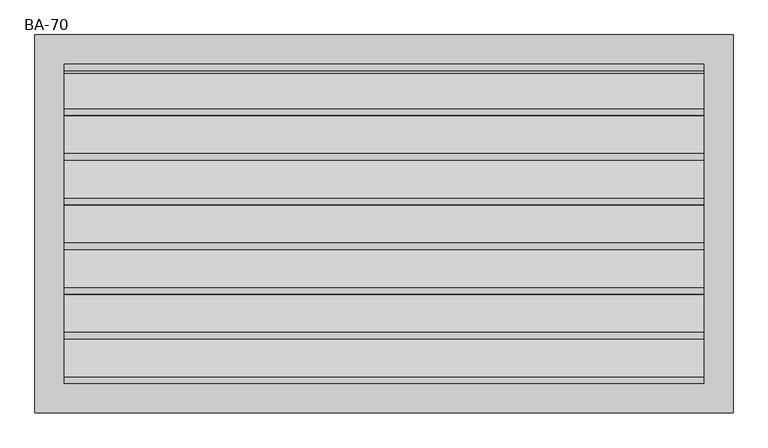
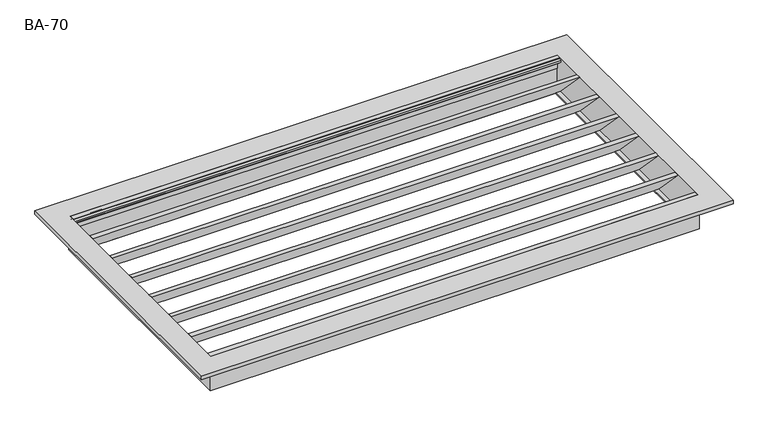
"""IFC4 building model written with IfcOpenShell, lengths in millimetres: air terminal geometry, NLRS_57_AIR_FB_Buitenluchtroosters BA_SMA : BA-70."""

from ifc_helpers import new_model, si_unit, frame, origin, place, context, project, spatial, polyline, outline, extrude, faceted_brep, source, transform, mapped, element, save


def ba_70_810faa98(model_context):
    return source(origin(), model_context, "Body", "SolidModel", [
        extrude(outline(polyline([(180.0694981, 7.5), (180.0694981, 6.1939238), (172.3735338, 6.1939238), (239.9430991, -64.3), (248.800293, -64.3), (248.800293, -62.0069251), (245.903107, -59.1097391), (246.7462329, -58.2666133), (249.9828093, -61.5031897), (249.9828093, -65.5), (240.0, -65.5), (170.0694981, 7.5), (180.0694981, 7.5)])), frame((-500.0, 0.0, 0.0), z_axis=(1.0, 0.0, 0.0), x_axis=(0.0, 1.0, 0.0)), (0.0, 0.0, 1.0), 1000.0),
        extrude(outline(polyline([(110.0694981, 7.5), (110.0694981, 6.1939238), (102.3735338, 6.1939238), (169.9430991, -64.3), (178.800293, -64.3), (178.800293, -62.0069251), (175.903107, -59.1097391), (176.7462329, -58.2666133), (179.9828093, -61.5031897), (179.9828093, -65.5), (170.0, -65.5), (100.0694981, 7.5), (110.0694981, 7.5)])), frame((-500.0, 0.0, 0.0), z_axis=(1.0, 0.0, 0.0), x_axis=(0.0, 1.0, 0.0)), (0.0, 0.0, 1.0), 1000.0),
        extrude(outline(polyline([(40.0694981, 7.5), (40.0694981, 6.1939238), (32.3735338, 6.1939238), (99.9430991, -64.3), (108.800293, -64.3), (108.800293, -62.0069251), (105.903107, -59.1097391), (106.7462329, -58.2666133), (109.9828093, -61.5031897), (109.9828093, -65.5), (100.0, -65.5), (30.0694981, 7.5), (40.0694981, 7.5)])), frame((-500.0, 0.0, 0.0), z_axis=(1.0, 0.0, 0.0), x_axis=(0.0, 1.0, 0.0)), (0.0, 0.0, 1.0), 1000.0),
        extrude(outline(polyline([(-29.9305019, 7.5), (-29.9305019, 6.1939238), (-37.6264662, 6.1939238), (29.9430991, -64.3), (38.800293, -64.3), (38.800293, -62.0069251), (35.903107, -59.1097391), (36.7462329, -58.2666133), (39.9828093, -61.5031897), (39.9828093, -65.5), (30.0, -65.5), (-39.9305019, 7.5), (-29.9305019, 7.5)])), frame((-500.0, 0.0, 0.0), z_axis=(1.0, 0.0, 0.0), x_axis=(0.0, 1.0, 0.0)), (0.0, 0.0, 1.0), 1000.0),
        extrude(outline(polyline([(-99.9305019, 7.5), (-99.9305019, 6.1939238), (-107.6264662, 6.1939238), (-40.0569009, -64.3), (-31.199707, -64.3), (-31.199707, -62.0069251), (-34.096893, -59.1097391), (-33.2537671, -58.2666133), (-30.0171907, -61.5031897), (-30.0171907, -65.5), (-40.0, -65.5), (-109.9305019, 7.5), (-99.9305019, 7.5)])), frame((-500.0, 0.0, 0.0), z_axis=(1.0, 0.0, 0.0), x_axis=(0.0, 1.0, 0.0)), (0.0, 0.0, 1.0), 1000.0),
        extrude(outline(polyline([(-169.9305019, 7.5), (-169.9305019, 6.1939238), (-177.6264662, 6.1939238), (-110.0569009, -64.3), (-101.199707, -64.3), (-101.199707, -62.0069251), (-104.096893, -59.1097391), (-103.2537671, -58.2666133), (-100.0171907, -61.5031897), (-100.0171907, -65.5), (-110.0, -65.5), (-179.9305019, 7.5), (-169.9305019, 7.5)])), frame((-500.0, 0.0, 0.0), z_axis=(1.0, 0.0, 0.0), x_axis=(0.0, 1.0, 0.0)), (0.0, 0.0, 1.0), 1000.0),
        extrude(outline(polyline([(250.0694981, 7.5), (250.0694981, 6.1939238), (242.3735338, 6.1939238), (250.0, -4.3603989), (250.0, -5.5), (240.0694981, 7.5), (250.0694981, 7.5)])), frame((-500.0, 0.0, 0.0), z_axis=(1.0, 0.0, 0.0), x_axis=(0.0, 1.0, 0.0)), (0.0, 0.0, 1.0), 1000.0),
        extrude(outline(polyline([(-239.9305019, 7.5), (-239.9305019, 6.1939238), (-247.6264662, 6.1939238), (-180.0569009, -64.3), (-171.199707, -64.3), (-171.199707, -62.0069251), (-174.096893, -59.1097391), (-173.2537671, -58.2666133), (-170.0171907, -61.5031897), (-170.0171907, -65.5), (-180.0, -65.5), (-249.9305019, 7.5), (-239.9305019, 7.5)])), frame((-500.0, 0.0, 0.0), z_axis=(1.0, 0.0, 0.0), x_axis=(0.0, 1.0, 0.0)), (0.0, 0.0, 1.0), 1000.0),
        extrude(outline(polyline([(246.070888, 4.800074), (250.0, 0.870962), (250.0, -20.199926), (249.0, -20.199926), (249.0, 0.252385), (245.57333, 3.600122), (237.270717, 3.600122), (237.270717, 1.297144), (240.44955, -1.881811), (239.600795, -2.729711), (236.070766, 0.799585), (236.070766, 4.800074), (246.070888, 4.800074)])), frame((-500.0, 0.0, 0.0), z_axis=(1.0, 0.0, 0.0), x_axis=(0.0, 1.0, 0.0)), (0.0, 0.0, 1.0), 1000.0),
        faceted_brep([(490.0, 240.0, -63.5), (490.0, 240.0, -65.5), (490.0, -240.0, -65.5), (490.0, -240.0, -63.5), (500.0, 250.0, 7.5), (500.0, 250.0, -63.5), (500.0, -250.0, -63.5), (500.0, -250.0, 7.5), (546.0, 296.0, 0.0), (546.0, 296.0, 7.5), (546.0, -296.0, 7.5), (546.0, -296.0, 0.0), (543.000015, 293.000015, 1.300049), (543.000015, 293.000015, 0.0), (543.000015, -293.000015, 0.0), (543.000015, -293.000015, 1.300049), (544.000015, 294.000015, 5.5), (544.000015, 294.000015, 1.300049), (544.000015, -294.000015, 1.300049), (544.000015, -294.000015, 5.5), (502.000122, 252.000122, 1.300049), (502.000122, 252.000122, 5.5), (502.000122, -252.000122, 5.5), (502.000122, -252.000122, 1.300049), (503.0, 253.0, 0.0), (503.0, 253.0, 1.300049), (503.0, -253.0, 1.300049), (503.0, -253.0, 0.0), (502.000122, 252.000122, -65.5), (502.000122, 252.000122, 0.0), (502.000122, -252.000122, 0.0), (502.000122, -252.000122, -65.5), (-490.0, -240.0, -65.5), (-490.0, -240.0, -63.5), (-500.0, -250.0, -63.5), (-500.0, -250.0, 7.5), (-546.0, -296.0, 7.5), (-546.0, -296.0, 0.0), (-543.000015, -293.000015, 0.0), (-543.000015, -293.000015, 1.300049), (-544.000015, -294.000015, 1.300049), (-544.000015, -294.000015, 5.5), (-502.000122, -252.000122, 5.5), (-502.000122, -252.000122, 1.300049), (-503.0, -253.0, 1.300049), (-503.0, -253.0, 0.0), (-502.000122, -252.000122, 0.0), (-502.000122, -252.000122, -65.5), (-490.0, 240.0, -65.5), (-490.0, 240.0, -63.5), (-500.0, 250.0, -63.5), (-500.0, 250.0, 7.5), (-546.0, 296.0, 7.5), (-546.0, 296.0, 0.0), (-543.000015, 293.000015, 0.0), (-543.000015, 293.000015, 1.300049), (-544.000015, 294.000015, 1.300049), (-544.000015, 294.000015, 5.5), (-502.000122, 252.000122, 5.5), (-502.000122, 252.000122, 1.300049), (-503.0, 253.0, 1.300049), (-503.0, 253.0, 0.0), (-502.000122, 252.000122, 0.0), (-502.000122, 252.000122, -65.5)], [[[0, 1, 2, 3]], [[4, 5, 6, 7]], [[8, 9, 10, 11]], [[12, 13, 14, 15]], [[16, 17, 18, 19]], [[20, 21, 22, 23]], [[24, 25, 26, 27]], [[28, 29, 30, 31]], [[3, 2, 32, 33]], [[7, 6, 34, 35]], [[11, 10, 36, 37]], [[15, 14, 38, 39]], [[19, 18, 40, 41]], [[23, 22, 42, 43]], [[27, 26, 44, 45]], [[31, 30, 46, 47]], [[33, 32, 48, 49]], [[35, 34, 50, 51]], [[37, 36, 52, 53]], [[39, 38, 54, 55]], [[41, 40, 56, 57]], [[43, 42, 58, 59]], [[45, 44, 60, 61]], [[47, 46, 62, 63]], [[31, 47, 63, 28], [1, 48, 32, 2]], [[49, 48, 1, 0]], [[5, 50, 34, 6], [3, 33, 49, 0]], [[51, 50, 5, 4]], [[9, 52, 36, 10], [7, 35, 51, 4]], [[53, 52, 9, 8]], [[11, 37, 53, 8], [13, 54, 38, 14]], [[55, 54, 13, 12]], [[17, 56, 40, 18], [15, 39, 55, 12]], [[57, 56, 17, 16]], [[19, 41, 57, 16], [21, 58, 42, 22]], [[59, 58, 21, 20]], [[25, 60, 44, 26], [23, 43, 59, 20]], [[61, 60, 25, 24]], [[27, 45, 61, 24], [29, 62, 46, 30]], [[63, 62, 29, 28]]]),
    ])


if __name__ == "__main__":
    model = new_model("IFC4")
    model_context = context("Model", 3, world=origin())
    ifc_project = project(units=[si_unit("LENGTHUNIT", "METRE", prefix="MILLI")], contexts=[model_context])
    site = spatial("IfcSite", under=ifc_project)
    building = spatial("IfcBuilding", under=site)
    placement = place(None, origin())
    ba_70_shape = ba_70_810faa98(model_context)
    element("IfcAirTerminal", 1, ObjectType="NLRS_57_AIR_FB_Buitenluchtroosters BA_SMA : BA-70", at=placement, inside=building, context=model_context, shape_type="MappedRepresentation", body=[
        mapped(ba_70_shape, transform((0.0, 0.0, 0.0), x_axis=(1.0, 0.0, 0.0), y_axis=(0.0, 1.0, 0.0), z_axis=(0.0, 0.0, 1.0))),
    ])
    save(model, "model.ifc")
